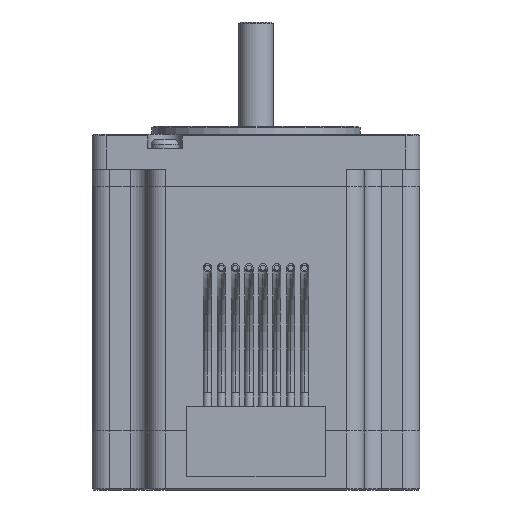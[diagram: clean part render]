
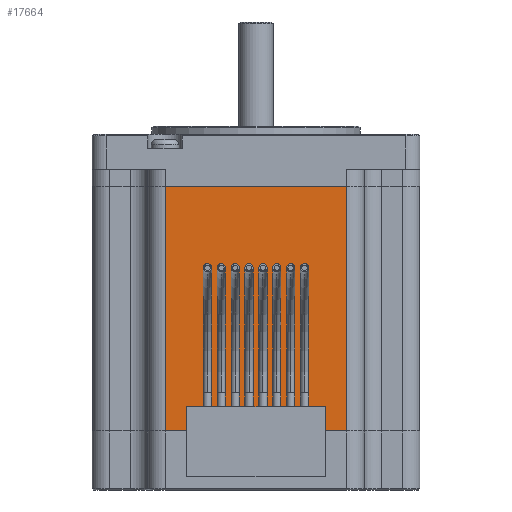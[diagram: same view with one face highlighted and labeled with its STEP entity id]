
A CAD part, front view. The second image highlights one B-rep face of the part: STEP entity #17664.
In plain terms, the highlighted planar face has unit normal (0, -1, 0).
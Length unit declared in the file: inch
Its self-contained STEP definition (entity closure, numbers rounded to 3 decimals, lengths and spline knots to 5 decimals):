
#714 = CARTESIAN_POINT ( 'NONE',  ( 0.655, -1.179, -0.375 ) ) ;
#753 = CARTESIAN_POINT ( 'NONE',  ( -0.655, -1.179, -0.375 ) ) ;
#834 = DIRECTION ( 'NONE',  ( -1., 0., 0. ) ) ;
#835 = VECTOR ( 'NONE', #834, 39.37008 ) ;
#836 = CARTESIAN_POINT ( 'NONE',  ( 0.655, -1.179, -0.375 ) ) ;
#843 = LINE ( 'NONE', #836, #835 ) ;
#6551 = FACE_OUTER_BOUND ( 'NONE', #17692, .T. ) ;
#6555 = PLANE ( 'NONE',  #6583 ) ;
#6583 = AXIS2_PLACEMENT_3D ( 'NONE', #6640, #6639, #6638 ) ;
#6638 = DIRECTION ( 'NONE',  ( -1., 0., 0. ) ) ;
#6639 = DIRECTION ( 'NONE',  ( 0., 1., 0. ) ) ;
#6640 = CARTESIAN_POINT ( 'NONE',  ( 0.655, -1.179, -2.135 ) ) ;
#7140 = DIRECTION ( 'NONE',  ( 0., 0., 1. ) ) ;
#7141 = VECTOR ( 'NONE', #7140, 39.37008 ) ;
#7142 = CARTESIAN_POINT ( 'NONE',  ( -0.655, -1.179, -2.135 ) ) ;
#7143 = LINE ( 'NONE', #7142, #7141 ) ;
#7150 = CARTESIAN_POINT ( 'NONE',  ( -0.655, -1.179, -2.135 ) ) ;
#8468 = VERTEX_POINT ( 'NONE', #714 ) ;
#8483 = VERTEX_POINT ( 'NONE', #753 ) ;
#8535 = EDGE_CURVE ( 'NONE', #8468, #8483, #843, .T. ) ;
#14625 = LINE ( 'NONE', #14695, #14694 ) ;
#14693 = DIRECTION ( 'NONE',  ( -1., 0., 0. ) ) ;
#14694 = VECTOR ( 'NONE', #14693, 39.37008 ) ;
#14695 = CARTESIAN_POINT ( 'NONE',  ( 0.655, -1.179, -2.135 ) ) ;
#14738 = CARTESIAN_POINT ( 'NONE',  ( 0.655, -1.179, -2.135 ) ) ;
#14755 = DIRECTION ( 'NONE',  ( 0., 0., 1. ) ) ;
#14756 = VECTOR ( 'NONE', #14755, 39.37008 ) ;
#14757 = CARTESIAN_POINT ( 'NONE',  ( 0.655, -1.179, -2.135 ) ) ;
#14780 = LINE ( 'NONE', #14757, #14756 ) ;
#17650 = ORIENTED_EDGE ( 'NONE', *, *, #17860, .F. ) ;
#17664 = ADVANCED_FACE ( 'NONE', ( #6551 ), #6555, .F. ) ;
#17692 = EDGE_LOOP ( 'NONE', ( #17799, #17817, #17650, #17855 ) ) ;
#17799 = ORIENTED_EDGE ( 'NONE', *, *, #8535, .T. ) ;
#17817 = ORIENTED_EDGE ( 'NONE', *, *, #17818, .F. ) ;
#17818 = EDGE_CURVE ( 'NONE', #17819, #8483, #7143, .T. ) ;
#17819 = VERTEX_POINT ( 'NONE', #7150 ) ;
#17855 = ORIENTED_EDGE ( 'NONE', *, *, #17906, .T. ) ;
#17860 = EDGE_CURVE ( 'NONE', #17895, #17819, #14625, .T. ) ;
#17895 = VERTEX_POINT ( 'NONE', #14738 ) ;
#17906 = EDGE_CURVE ( 'NONE', #17895, #8468, #14780, .T. ) ;
